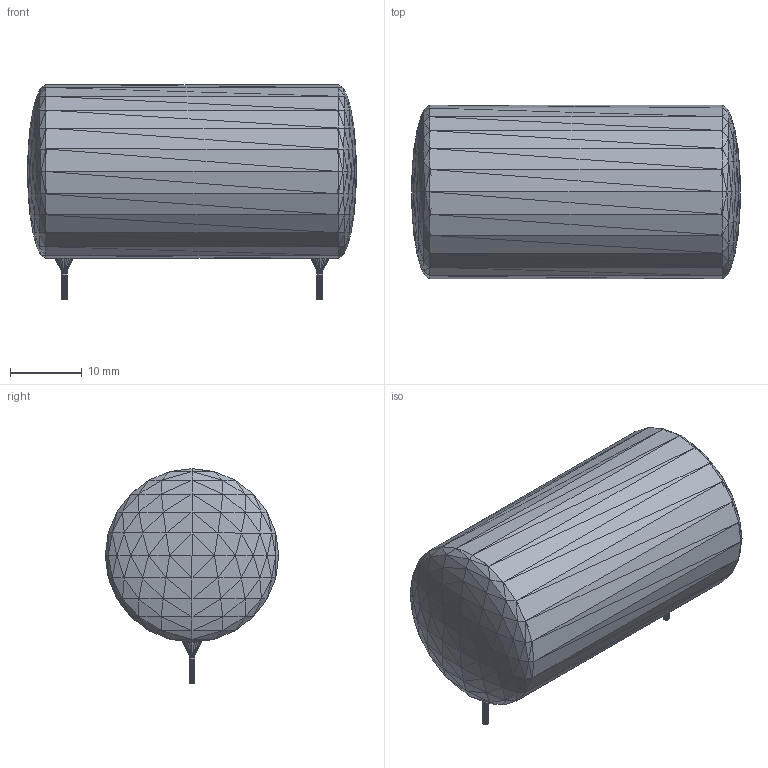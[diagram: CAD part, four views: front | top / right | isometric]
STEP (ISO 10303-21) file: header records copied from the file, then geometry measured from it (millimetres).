
FILE_DESCRIPTION(('HOOPS Exchange Step'),'2;1');
FILE_NAME('***.stp');
FILE_SCHEMA( ('AP242_MANAGED_MODEL_BASED_3D_ENGINEERING_MIM_LF {1 0 10303 442 1 1 4 }') );
Length unit declared in the file: inch
Products named in the file (8): CAPORGXXLGNF_2; CAPORGXXLGNF_3; CAPORGXXLGNF_4; CAPORGXXLGNF_5; CAPORGXXLGNF_6; CAPORGXXLGNF_7; CAPORGXXLGNF_8; CAPORGXXLGNF
Assembly tree (7 placements, depth 2):
  CAPORGXXLGNF
    CAPORGXXLGNF_2
    CAPORGXXLGNF_3
    CAPORGXXLGNF_4
    CAPORGXXLGNF_5
    CAPORGXXLGNF_6
    CAPORGXXLGNF_7
    CAPORGXXLGNF_8
Bounding box: 45.72 x 24.13 x 29.85 mm (x, y, z)
Surface area: 12019.4 mm2 (no closed solid volume)
Topology: 0 solids, 1920 shells, 1920 faces, 1440 edges, 494 vertices
Faces by surface type: plane 1920
Entity records: 29644 total; most frequent: ORIENTED_EDGE 5760, DIRECTION 5312, CARTESIAN_POINT 3870, AXIS2_PLACEMENT_3D 1936, PLANE 1920, EDGE_LOOP 1920, FACE_BOUND 1920, ADVANCED_FACE 1920
